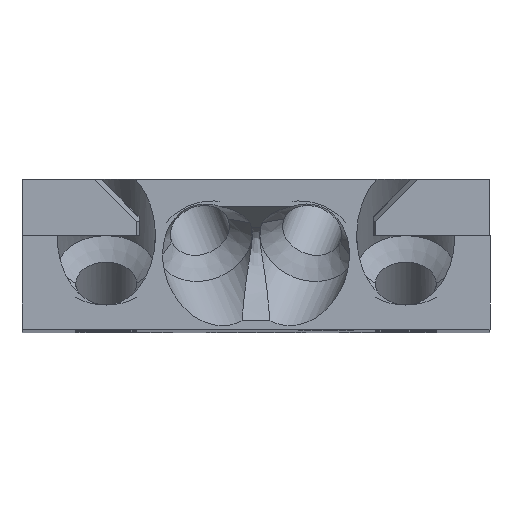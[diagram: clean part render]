
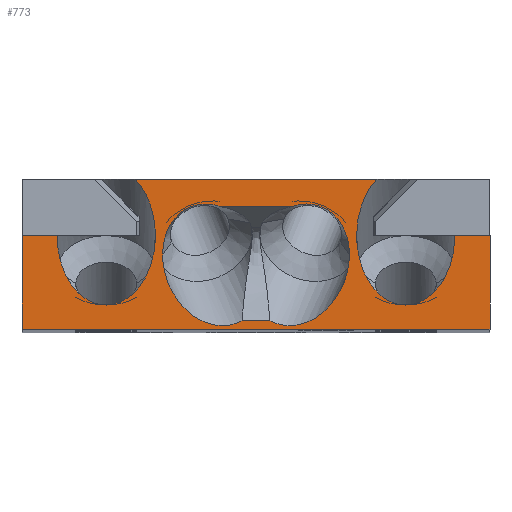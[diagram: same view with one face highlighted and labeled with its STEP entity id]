
A CAD part, top view. The second image highlights one B-rep face of the part: STEP entity #773.
In plain terms, the highlighted planar face has unit normal (0, 0, 1).
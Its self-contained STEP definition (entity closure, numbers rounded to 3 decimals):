
#773=ADVANCED_FACE('',(#1661,#1662),#1663,.T.);
#1661=FACE_OUTER_BOUND('',#2609,.T.);
#1662=FACE_BOUND('',#2610,.T.);
#1663=PLANE('',#2611);
#2609=EDGE_LOOP('',(#4894,#4895,#4896,#4897,#4898,#4899,#4900,#4901,#4902,#4903,#4904,#4905));
#2610=EDGE_LOOP('',(#4906,#4907,#4908,#4909,#4910,#4911));
#2611=AXIS2_PLACEMENT_3D('',#4912,#4913,#4914);
#4894=ORIENTED_EDGE('',*,*,#6341,.T.);
#4895=ORIENTED_EDGE('',*,*,#6094,.T.);
#4896=ORIENTED_EDGE('',*,*,#5972,.T.);
#4897=ORIENTED_EDGE('',*,*,#6317,.F.);
#4898=ORIENTED_EDGE('',*,*,#6293,.F.);
#4899=ORIENTED_EDGE('',*,*,#6280,.F.);
#4900=ORIENTED_EDGE('',*,*,#6311,.T.);
#4901=ORIENTED_EDGE('',*,*,#6327,.T.);
#4902=ORIENTED_EDGE('',*,*,#5899,.T.);
#4903=ORIENTED_EDGE('',*,*,#6097,.T.);
#4904=ORIENTED_EDGE('',*,*,#6342,.T.);
#4905=ORIENTED_EDGE('',*,*,#6343,.T.);
#4906=ORIENTED_EDGE('',*,*,#6344,.T.);
#4907=ORIENTED_EDGE('',*,*,#5894,.T.);
#4908=ORIENTED_EDGE('',*,*,#6345,.F.);
#4909=ORIENTED_EDGE('',*,*,#6346,.T.);
#4910=ORIENTED_EDGE('',*,*,#5888,.T.);
#4911=ORIENTED_EDGE('',*,*,#6347,.F.);
#4912=CARTESIAN_POINT('',(-25.0,0.,0.));
#4913=DIRECTION('',(0.,0.,1.0));
#4914=DIRECTION('',(1.0,0.,0.));
#5888=EDGE_CURVE('',#7083,#7081,#7084,.T.);
#5894=EDGE_CURVE('',#7092,#7090,#7093,.T.);
#5899=EDGE_CURVE('',#7097,#7099,#7101,.T.);
#5972=EDGE_CURVE('',#7210,#7214,#7216,.T.);
#6094=EDGE_CURVE('',#7404,#7210,#7406,.T.);
#6097=EDGE_CURVE('',#7099,#7408,#7410,.T.);
#6280=EDGE_CURVE('',#7684,#7661,#7686,.T.);
#6293=EDGE_CURVE('',#7661,#7703,#7704,.T.);
#6311=EDGE_CURVE('',#7684,#7728,#7730,.T.);
#6317=EDGE_CURVE('',#7703,#7214,#7737,.T.);
#6327=EDGE_CURVE('',#7728,#7097,#7754,.T.);
#6341=EDGE_CURVE('',#7769,#7404,#7770,.T.);
#6342=EDGE_CURVE('',#7408,#7771,#7772,.T.);
#6343=EDGE_CURVE('',#7771,#7769,#7773,.T.);
#6344=EDGE_CURVE('',#7774,#7092,#7775,.T.);
#6345=EDGE_CURVE('',#7776,#7090,#7777,.T.);
#6346=EDGE_CURVE('',#7776,#7083,#7778,.T.);
#6347=EDGE_CURVE('',#7774,#7081,#7779,.T.);
#7081=VERTEX_POINT('',#8699);
#7083=VERTEX_POINT('',#8709);
#7084=ELLIPSE('',#8710,6.684,5.25);
#7090=VERTEX_POINT('',#8718);
#7092=VERTEX_POINT('',#8732);
#7093=ELLIPSE('',#8733,6.684,5.25);
#7097=VERTEX_POINT('',#8738);
#7099=VERTEX_POINT('',#8741);
#7101=ELLIPSE('',#8743,7.425,5.25);
#7210=VERTEX_POINT('',#8878);
#7214=VERTEX_POINT('',#8882);
#7216=ELLIPSE('',#8885,7.425,5.25);
#7404=VERTEX_POINT('',#9117);
#7406=ELLIPSE('',#9120,7.425,5.25);
#7408=VERTEX_POINT('',#9122);
#7410=ELLIPSE('',#9125,7.425,5.25);
#7661=VERTEX_POINT('',#9444);
#7684=VERTEX_POINT('',#9476);
#7686=LINE('',#9479,#9480);
#7703=VERTEX_POINT('',#9503);
#7704=LINE('',#9504,#9505);
#7728=VERTEX_POINT('',#9540);
#7730=LINE('',#9543,#9544);
#7737=LINE('',#9554,#9555);
#7754=LINE('',#9576,#9577);
#7769=VERTEX_POINT('',#9593);
#7770=ELLIPSE('',#9594,7.425,5.25);
#7771=VERTEX_POINT('',#9595);
#7772=ELLIPSE('',#9596,7.425,5.25);
#7773=LINE('',#9597,#9598);
#7774=VERTEX_POINT('',#9599);
#7775=ELLIPSE('',#9600,6.684,5.25);
#7776=VERTEX_POINT('',#9601);
#7777=B_SPLINE_CURVE_WITH_KNOTS('',3,(#9602,#9603,#9604,#9605),.UNSPECIFIED.,.F.,.F.,(4,4),(-0.282,0.479),.UNSPECIFIED.);
#7778=ELLIPSE('',#9606,6.684,5.25);
#7779=B_SPLINE_CURVE_WITH_KNOTS('',3,(#9607,#9608,#9609,#9610,#9611,#9612),.UNSPECIFIED.,.F.,.F.,(4,2,4),(0.0,0.149,0.297),.UNSPECIFIED.);
#8699=CARTESIAN_POINT('',(1.485,0.922,0.0));
#8709=CARTESIAN_POINT('',(9.365,4.898,0.));
#8710=AXIS2_PLACEMENT_3D('',#10394,#10395,#10396);
#8718=CARTESIAN_POINT('',(-3.805,13.09,0.0));
#8732=CARTESIAN_POINT('',(-9.365,4.898,0.));
#8733=AXIS2_PLACEMENT_3D('',#10402,#10403,#10404);
#8738=CARTESIAN_POINT('',(21.25,10.0,0.));
#8741=CARTESIAN_POINT('',(16.0,2.575,0.));
#8743=AXIS2_PLACEMENT_3D('',#10410,#10411,#10412);
#8878=CARTESIAN_POINT('',(-16.0,2.575,0.));
#8882=CARTESIAN_POINT('',(-21.25,10.,0.));
#8885=AXIS2_PLACEMENT_3D('',#10524,#10525,#10526);
#9117=CARTESIAN_POINT('',(-10.75,10.0,0.));
#9120=AXIS2_PLACEMENT_3D('',#10713,#10714,#10715);
#9122=CARTESIAN_POINT('',(10.75,10.0,0.));
#9125=AXIS2_PLACEMENT_3D('',#10717,#10718,#10719);
#9444=CARTESIAN_POINT('',(-25.0,0.,0.));
#9476=CARTESIAN_POINT('',(25.0,0.,0.));
#9479=CARTESIAN_POINT('',(25.0,0.,0.));
#9480=VECTOR('',#10990,10.0);
#9503=CARTESIAN_POINT('',(-25.0,10.,0.));
#9504=CARTESIAN_POINT('',(-25.0,0.,0.));
#9505=VECTOR('',#11000,10.0);
#9540=CARTESIAN_POINT('',(25.0,10.0,0.));
#9543=CARTESIAN_POINT('',(25.0,0.,0.));
#9544=VECTOR('',#11013,10.0);
#9554=CARTESIAN_POINT('',(-12.5,10.,0.));
#9555=VECTOR('',#11017,10.0);
#9576=CARTESIAN_POINT('',(-12.5,10.,0.));
#9577=VECTOR('',#11037,10.0);
#9593=CARTESIAN_POINT('',(-12.908,16.0,0.));
#9594=AXIS2_PLACEMENT_3D('',#11072,#11073,#11074);
#9595=CARTESIAN_POINT('',(12.908,16.0,0.));
#9596=AXIS2_PLACEMENT_3D('',#11075,#11076,#11077);
#9597=CARTESIAN_POINT('',(-15.293,16.0,0.0));
#9598=VECTOR('',#11078,10.0);
#9599=CARTESIAN_POINT('',(-1.485,0.922,0.0));
#9600=AXIS2_PLACEMENT_3D('',#11079,#11080,#11081);
#9601=CARTESIAN_POINT('',(3.805,13.09,0.0));
#9602=CARTESIAN_POINT('',(3.805,13.09,0.0));
#9603=CARTESIAN_POINT('',(1.268,13.09,0.0));
#9604=CARTESIAN_POINT('',(-1.268,13.09,0.0));
#9605=CARTESIAN_POINT('',(-3.805,13.09,0.0));
#9606=AXIS2_PLACEMENT_3D('',#11082,#11083,#11084);
#9607=CARTESIAN_POINT('',(-1.485,0.922,0.0));
#9608=CARTESIAN_POINT('',(-0.99,0.922,0.0));
#9609=CARTESIAN_POINT('',(-0.495,0.922,0.0));
#9610=CARTESIAN_POINT('',(0.495,0.922,0.0));
#9611=CARTESIAN_POINT('',(0.99,0.922,0.0));
#9612=CARTESIAN_POINT('',(1.485,0.922,0.0));
#10394=CARTESIAN_POINT('',(4.5,6.871,0.0));
#10395=DIRECTION('',(0.,0.,-1.0));
#10396=DIRECTION('',(0.376,0.927,0.));
#10402=CARTESIAN_POINT('',(-4.5,6.871,0.0));
#10403=DIRECTION('',(0.,0.,-1.0));
#10404=DIRECTION('',(-0.376,0.927,0.));
#10410=CARTESIAN_POINT('',(16.0,10.0,0.));
#10411=DIRECTION('',(0.,0.,-1.0));
#10412=DIRECTION('',(0.,-1.0,0.));
#10524=CARTESIAN_POINT('',(-16.0,10.0,0.));
#10525=DIRECTION('',(0.,0.,-1.0));
#10526=DIRECTION('',(0.,-1.0,0.));
#10713=CARTESIAN_POINT('',(-16.0,10.0,0.));
#10714=DIRECTION('',(0.,0.,-1.0));
#10715=DIRECTION('',(0.,-1.0,0.));
#10717=CARTESIAN_POINT('',(16.0,10.0,0.));
#10718=DIRECTION('',(0.,0.,-1.0));
#10719=DIRECTION('',(0.,-1.0,0.));
#10990=DIRECTION('',(-1.0,0.,0.));
#11000=DIRECTION('',(0.,1.0,0.));
#11013=DIRECTION('',(0.,1.0,0.));
#11017=DIRECTION('',(1.0,0.,0.));
#11037=DIRECTION('',(-1.0,0.,0.));
#11072=CARTESIAN_POINT('',(-16.0,10.0,0.));
#11073=DIRECTION('',(0.,0.,-1.0));
#11074=DIRECTION('',(0.,-1.0,0.));
#11075=CARTESIAN_POINT('',(16.0,10.0,0.));
#11076=DIRECTION('',(0.,0.,-1.0));
#11077=DIRECTION('',(0.,-1.0,0.));
#11078=DIRECTION('',(-1.0,0.,0.));
#11079=CARTESIAN_POINT('',(-4.5,6.871,0.0));
#11080=DIRECTION('',(0.,0.,-1.0));
#11081=DIRECTION('',(-0.376,0.927,0.));
#11082=CARTESIAN_POINT('',(4.5,6.871,0.0));
#11083=DIRECTION('',(0.,0.,-1.0));
#11084=DIRECTION('',(0.376,0.927,0.));
